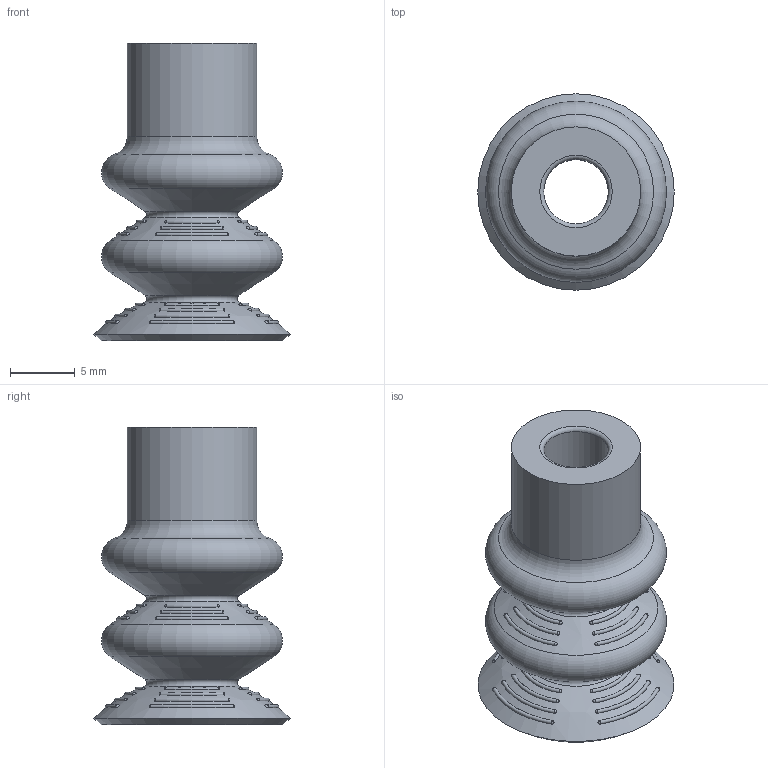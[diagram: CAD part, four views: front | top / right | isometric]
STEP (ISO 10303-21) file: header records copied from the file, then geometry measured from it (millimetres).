
FILE_DESCRIPTION(('STEP AP203'),'1');
FILE_NAME('_3D.stp','2024-06-11T23:23:00',(' '),(' '),'Spatial InterOp 3D',' ',' ');
FILE_SCHEMA(('CONFIG_CONTROL_DESIGN'));
Length unit declared in the file: millimetre
Products named in the file (1): 1
Bounding box: 15.2 x 15.2 x 23 mm (x, y, z)
Volume: 1268.5 mm3; surface area: 1965.2 mm2
Topology: 1 solids, 1 shells, 110 faces, 433 edges, 290 vertices
Faces by surface type: sphere 58, torus 40, cone 8, cylinder 2, plane 2
Full cylindrical faces by diameter (mm): 5 x1, 10 x1
Entity records: 3431 total; most frequent: CARTESIAN_POINT 958, DIRECTION 562, ORIENTED_EDGE 436, AXIS2_PLACEMENT_3D 281, EDGE_CURVE 218, CIRCLE 170, EDGE_LOOP 164, VERTEX_POINT 162
